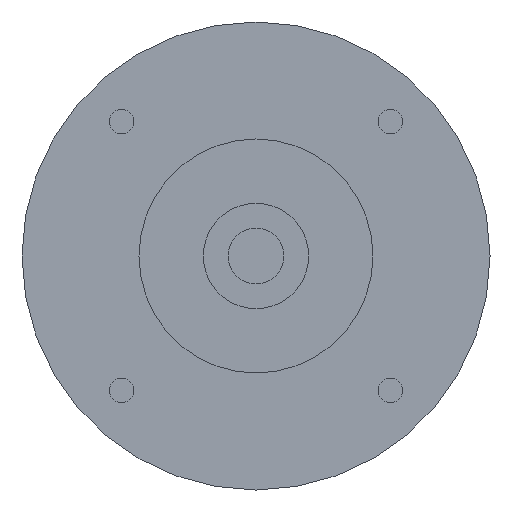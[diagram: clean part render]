
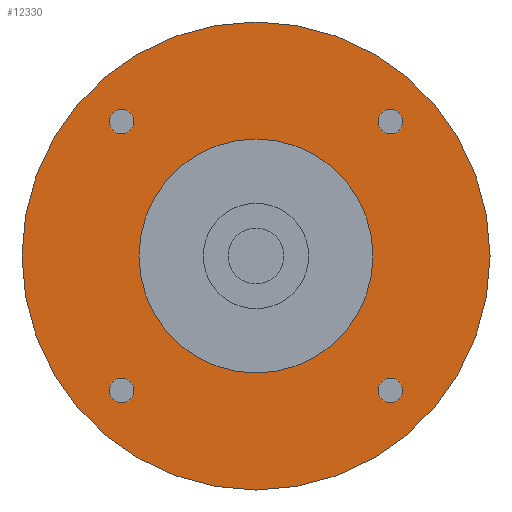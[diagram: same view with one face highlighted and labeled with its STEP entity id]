
A CAD part, left-side view. The second image highlights one B-rep face of the part: STEP entity #12330.
In plain terms, the highlighted planar face has unit normal (-1, 0, 0) as drawn and (0, 0, -1) by its records, which use the part's own axes.
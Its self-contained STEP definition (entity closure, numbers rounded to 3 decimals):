
#8640=CARTESIAN_POINT('',(-20.,0.,-42.2));
#8650=VERTEX_POINT('',#8640);
#8830=CARTESIAN_POINT('',(20.,0.,-42.2));
#8840=VERTEX_POINT('',#8830);
#8870=CARTESIAN_POINT('',(0.,0.,
-42.2));
#8880=DIRECTION('',(0.,0.,1.));
#8890=DIRECTION('',(-1.,0.,0.));
#8900=AXIS2_PLACEMENT_3D('',#8870,#8880,#8890);
#8910=CIRCLE('',#8900,20.);
#8920=EDGE_CURVE('',#8840,#8650,#8910,.T.);
#9060=CARTESIAN_POINT('',(-25.081,-22.981,-42.2));
#9070=VERTEX_POINT('',#9060);
#9250=CARTESIAN_POINT('',(-20.881,-22.981,-42.2));
#9260=VERTEX_POINT('',#9250);
#9290=CARTESIAN_POINT('',(-22.981,-22.981,-42.2));
#9300=DIRECTION('',(0.,0.,-1.));
#9310=DIRECTION('',(1.,0.,0.));
#9320=AXIS2_PLACEMENT_3D('',#9290,#9300,#9310);
#9330=CIRCLE('',#9320,2.1);
#9340=EDGE_CURVE('',#9070,#9260,#9330,.T.);
#11450=CARTESIAN_POINT('',(-40.,0.,-42.2));
#11460=VERTEX_POINT('',#11450);
#11490=CARTESIAN_POINT('',(0.,0.,
-42.2));
#11500=DIRECTION('',(0.,0.,-1.));
#11510=DIRECTION('',(1.,0.,0.));
#11520=AXIS2_PLACEMENT_3D('',#11490,#11500,#11510);
#11530=CIRCLE('',#11520,40.);
#11540=CARTESIAN_POINT('',(40.,0.,-42.2));
#11550=VERTEX_POINT('',#11540);
#11560=EDGE_CURVE('',#11460,#11550,#11530,.T.);
#11680=CARTESIAN_POINT('',(0.,0.,
-42.2));
#11690=DIRECTION('',(0.,0.,1.));
#11700=DIRECTION('',(1.,0.,0.));
#11710=AXIS2_PLACEMENT_3D('',#11680,#11690,#11700);
#11720=PLANE('',#11710);
#11730=CARTESIAN_POINT('',(-22.981,22.981,-42.2));
#11740=DIRECTION('',(0.,0.,-1.));
#11750=DIRECTION('',(1.,0.,0.));
#11760=AXIS2_PLACEMENT_3D('',#11730,#11740,#11750);
#11770=CIRCLE('',#11760,2.1);
#11780=CARTESIAN_POINT('',(-20.881,22.981,-42.2));
#11790=VERTEX_POINT('',#11780);
#11800=CARTESIAN_POINT('',(-25.081,22.981,-42.2));
#11810=VERTEX_POINT('',#11800);
#11820=EDGE_CURVE('',#11790,#11810,#11770,.T.);
#11830=ORIENTED_EDGE('',*,*,#11820,.F.);
#11840=EDGE_CURVE('',#11810,#11790,#11770,.T.);
#11850=ORIENTED_EDGE('',*,*,#11840,.F.);
#11860=EDGE_LOOP('',(#11850,#11830));
#11870=FACE_BOUND('',#11860,.T.);
#11880=CARTESIAN_POINT('',(22.981,22.981,-42.2));
#11890=DIRECTION('',(0.,0.,-1.));
#11900=DIRECTION('',(1.,0.,0.));
#11910=AXIS2_PLACEMENT_3D('',#11880,#11890,#11900);
#11920=CIRCLE('',#11910,2.1);
#11930=CARTESIAN_POINT('',(25.081,22.981,-42.2));
#11940=VERTEX_POINT('',#11930);
#11950=CARTESIAN_POINT('',(20.881,22.981,-42.2));
#11960=VERTEX_POINT('',#11950);
#11970=EDGE_CURVE('',#11940,#11960,#11920,.T.);
#11980=ORIENTED_EDGE('',*,*,#11970,.F.);
#11990=EDGE_CURVE('',#11960,#11940,#11920,.T.);
#12000=ORIENTED_EDGE('',*,*,#11990,.F.);
#12010=EDGE_LOOP('',(#12000,#11980));
#12020=FACE_BOUND('',#12010,.T.);
#12030=CARTESIAN_POINT('',(22.981,-22.981,-42.2));
#12040=DIRECTION('',(0.,0.,-1.));
#12050=DIRECTION('',(1.,0.,0.));
#12060=AXIS2_PLACEMENT_3D('',#12030,#12040,#12050);
#12070=CIRCLE('',#12060,2.1);
#12080=CARTESIAN_POINT('',(25.081,-22.981,-42.2));
#12090=VERTEX_POINT('',#12080);
#12100=CARTESIAN_POINT('',(20.881,-22.981,-42.2));
#12110=VERTEX_POINT('',#12100);
#12120=EDGE_CURVE('',#12090,#12110,#12070,.T.);
#12130=ORIENTED_EDGE('',*,*,#12120,.F.);
#12140=EDGE_CURVE('',#12110,#12090,#12070,.T.);
#12150=ORIENTED_EDGE('',*,*,#12140,.F.);
#12160=EDGE_LOOP('',(#12150,#12130));
#12170=FACE_BOUND('',#12160,.T.);
#12180=EDGE_CURVE('',#8650,#8840,#8910,.T.);
#12190=ORIENTED_EDGE('',*,*,#12180,.T.);
#12200=ORIENTED_EDGE('',*,*,#8920,.T.);
#12210=EDGE_LOOP('',(#12200,#12190));
#12220=FACE_BOUND('',#12210,.T.);
#12230=EDGE_CURVE('',#9260,#9070,#9330,.T.);
#12240=ORIENTED_EDGE('',*,*,#12230,.F.);
#12250=ORIENTED_EDGE('',*,*,#9340,.F.);
#12260=EDGE_LOOP('',(#12250,#12240));
#12270=FACE_BOUND('',#12260,.T.);
#12280=EDGE_CURVE('',#11550,#11460,#11530,.T.);
#12290=ORIENTED_EDGE('',*,*,#12280,.T.);
#12300=ORIENTED_EDGE('',*,*,#11560,.T.);
#12310=EDGE_LOOP('',(#12300,#12290));
#12320=FACE_OUTER_BOUND('',#12310,.T.);
#12330=ADVANCED_FACE('',(#11870,#12020,#12170,#12220,#12270,#12320),
#11720,.F.);
